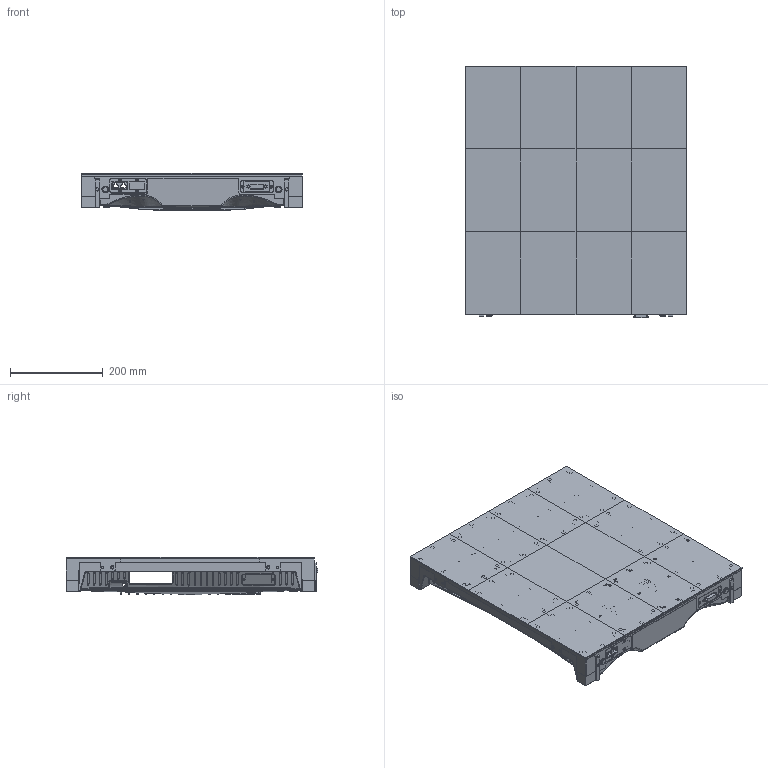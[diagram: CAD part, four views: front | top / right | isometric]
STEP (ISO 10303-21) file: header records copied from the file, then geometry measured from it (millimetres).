
FILE_DESCRIPTION (( 'STEP AP203' ), '1' );
FILE_NAME ('020_001430-02_Rev_01.STEP', '2019-05-22T09:40:47', ( 'Christie' ), ( 'Christie Digital' ), 'SwSTEP 2.0', 'SolidWorks 2015', '' );
FILE_SCHEMA (( 'CONFIG_CONTROL_DESIGN' ));
Products named in the file (1): 020_001430-02_Rev_01
Bounding box: 476.16 x 542.98 x 80.16 mm (x, y, z)
Surface area: 1024978 mm2 (no closed solid volume)
Topology: 0 solids, 476 shells, 4033 faces, 14180 edges, 10441 vertices
Faces by surface type: cylinder 1431, plane 1243, bspline 1144, cone 169, torus 46
Entity records: 276415 total; most frequent: CARTESIAN_POINT 171895, ORIENTED_EDGE 21220, DIRECTION 16758, EDGE_CURVE 14145, VERTEX_POINT 10441, LINE 5716, VECTOR 5716, AXIS2_PLACEMENT_3D 5521
